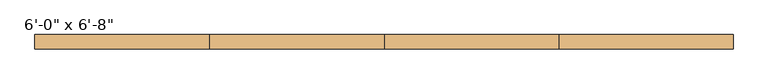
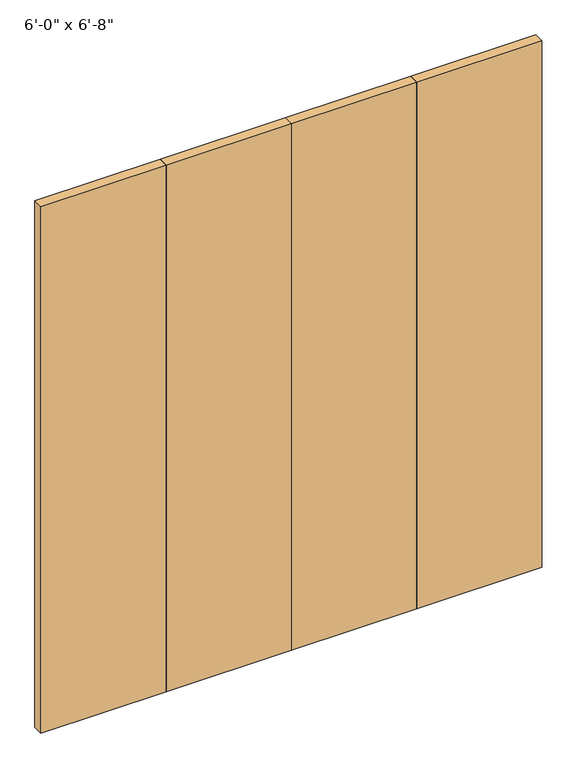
"""IFC4 building model written with IfcOpenShell, lengths in millimetres: door geometry."""

import ifcopenshell
import ifcopenshell.guid

model = None  # the IFC model being written
_history = None  # IfcOwnerHistory: only IFC2X3 demands one
_inside = {}  # id of a spatial element -> (the spatial element, [elements in it])
_under = {}  # id of a project, library or spatial element -> (it, [spatial elements below it])
_declared = {}  # id of a project -> (the project, [libraries it declares])
_typed = {}  # id of a type object -> (the type object, [elements of that type])
_made_of = {}  # id of a material, layer set ... -> (it, [elements and type objects made of it])


def new_model(schema):
    """Start an empty IFC model of exactly this schema.

    Asked for "IFC4X3", IfcOpenShell would pick the latest addendum, in which some entities
    have other attributes; the version numbers below select the first issue.
    IFC2X3 requires an IfcOwnerHistory on every rooted entity: one is made here for all.
    """
    global model, _history
    if schema == "IFC4X3":
        model = ifcopenshell.file(schema_version=(4, 3, 0, 0))
    else:
        model = ifcopenshell.file(schema=schema)
    _inside.clear()
    _under.clear()
    _declared.clear()
    _typed.clear()
    _made_of.clear()
    _history = None
    if model.schema == "IFC2X3":
        org = make("IfcOrganization", Name="unknown")
        user = make(
            "IfcPersonAndOrganization",
            ThePerson=make("IfcPerson", FamilyName="unknown"),
            TheOrganization=org,
        )
        app = make(
            "IfcApplication",
            ApplicationDeveloper=org,
            Version="unknown",
            ApplicationFullName="unknown",
            ApplicationIdentifier="unknown",
        )
        _history = make(
            "IfcOwnerHistory",
            OwningUser=user,
            OwningApplication=app,
            ChangeAction="ADDED",
            CreationDate=0,
        )
    return model


def make(cls, **values):
    """One entity of the class cls with the attributes given. An attribute that is None is left unset."""
    return model.create_entity(
        cls, **{name: value for name, value in values.items() if value is not None}
    )


def rooted(cls, **values):
    """An entity with a GlobalId (a new one), such as an element, a storey or a relation."""
    return make(cls, GlobalId=ifcopenshell.guid.new(), OwnerHistory=_history, **values)


def si_unit(unit_type, name, prefix=None):
    """IfcSIUnit, for example si_unit("LENGTHUNIT", "METRE", prefix="MILLI")."""
    return make("IfcSIUnit", UnitType=unit_type, Prefix=prefix, Name=name)


def assignment(units):
    """IfcUnitAssignment: the units of a project."""
    return None if units is None else make("IfcUnitAssignment", Units=units)


def point(xyz):
    """IfcCartesianPoint."""
    return None if xyz is None else make("IfcCartesianPoint", Coordinates=xyz)


def direction(xyz):
    """IfcDirection."""
    return None if xyz is None else make("IfcDirection", DirectionRatios=xyz)


def frame(location, z_axis=None, x_axis=None):
    """IfcAxis2Placement3D, a coordinate frame: its origin and axes. An axis left out is left unset."""
    return make(
        "IfcAxis2Placement3D",
        Location=point(location),
        Axis=direction(z_axis),
        RefDirection=direction(x_axis),
    )


def origin():
    """The frame at (0, 0, 0) with its axes left unset."""
    return frame((0.0, 0.0, 0.0))


def origin_with_axes():
    """The frame at (0, 0, 0) with the z axis (0, 0, 1) and the x axis (1, 0, 0) written out."""
    return frame((0.0, 0.0, 0.0), z_axis=(0.0, 0.0, 1.0), x_axis=(1.0, 0.0, 0.0))


def place(relative_to, where):
    """IfcLocalPlacement: puts the frame where relative to a parent placement (None: the world)."""
    return make(
        "IfcLocalPlacement", PlacementRelTo=relative_to, RelativePlacement=where
    )


def context(
    kind, dimensions, precision=None, world=None, true_north=None, identifier=None
):
    """IfcGeometricRepresentationContext, for example the 3D "Model" context."""
    return make(
        "IfcGeometricRepresentationContext",
        ContextIdentifier=identifier,
        ContextType=kind,
        CoordinateSpaceDimension=dimensions,
        Precision=precision,
        WorldCoordinateSystem=world,
        TrueNorth=true_north,
    )


def project(units=None, contexts=None):
    """IfcProject with its units and contexts."""
    return rooted(
        "IfcProject",
        Name="project",
        RepresentationContexts=contexts,
        UnitsInContext=assignment(units),
    )


def spatial(cls, under=None, at=None, **own):
    """A site, building, storey or space (cls), placed at a placement, below another one or the project."""
    s = rooted(cls, ObjectPlacement=at, **own)
    if under is not None:
        _under.setdefault(under.id(), (under, []))[1].append(s)
    return s


def polyline(points):
    """IfcPolyline through the points."""
    return make("IfcPolyline", Points=[point(p) for p in points])


def outline(outer, holes=None, kind="AREA"):
    """IfcArbitraryClosedProfileDef: a profile drawn as a closed curve; with holes, ...WithVoids."""
    if holes is None:
        return make("IfcArbitraryClosedProfileDef", ProfileType=kind, OuterCurve=outer)
    return make(
        "IfcArbitraryProfileDefWithVoids",
        ProfileType=kind,
        OuterCurve=outer,
        InnerCurves=holes,
    )


def extrude(swept, where, along, depth):
    """IfcExtrudedAreaSolid: the profile swept, set in the frame where, extruded along a direction by depth."""
    return make(
        "IfcExtrudedAreaSolid",
        SweptArea=swept,
        Position=where,
        ExtrudedDirection=direction(along),
        Depth=depth,
    )


def shape(context_of_items, identifier, shape_type, items):
    """IfcShapeRepresentation: the items that make up one representation, for example the "Body"."""
    return make(
        "IfcShapeRepresentation",
        ContextOfItems=context_of_items,
        RepresentationIdentifier=identifier,
        RepresentationType=shape_type,
        Items=items,
    )


def source(mapping_origin, context_of_items, identifier, shape_type, items):
    """IfcRepresentationMap: a shape defined once, which mapped items show again and again."""
    return make(
        "IfcRepresentationMap",
        MappingOrigin=mapping_origin,
        MappedRepresentation=shape(context_of_items, identifier, shape_type, items),
    )


def transform(
    local_origin,
    x_axis=None,
    y_axis=None,
    z_axis=None,
    scale=None,
    scale2=None,
    scale3=None,
    uniform=True,
):
    """IfcCartesianTransformationOperator3D, or its non-uniform kind. x_axis, y_axis, z_axis: its Axis1, 2, 3."""
    if uniform:
        return make(
            "IfcCartesianTransformationOperator3D",
            Axis1=direction(x_axis),
            Axis2=direction(y_axis),
            LocalOrigin=point(local_origin),
            Scale=scale,
            Axis3=direction(z_axis),
        )
    return make(
        "IfcCartesianTransformationOperator3DnonUniform",
        Axis1=direction(x_axis),
        Axis2=direction(y_axis),
        LocalOrigin=point(local_origin),
        Scale=scale,
        Axis3=direction(z_axis),
        Scale2=scale2,
        Scale3=scale3,
    )


def mapped(mapping_source, mapping_target):
    """IfcMappedItem: shows the shape of a source again, moved by a transform."""
    return make(
        "IfcMappedItem", MappingSource=mapping_source, MappingTarget=mapping_target
    )


def made_of(thing, what):
    """Note that an element or type object is made of a material, layer set ...; save() writes the relation."""
    if what is not None:
        _made_of.setdefault(what.id(), (what, []))[1].append(thing)
    return thing


def element(
    cls,
    number,
    at=None,
    inside=None,
    cuts=None,
    type_object=None,
    material=None,
    context=None,
    identifier="Body",
    shape_type=None,
    held_by="IfcProductDefinitionShape",
    body=None,
    shapes=None,
    **own,
):
    """One element of the class cls, such as IfcWall. Its Tag is "e" and its number.

    at: its placement. inside: the storey or other place that contains it. cuts: it is an
    opening in that element (IfcRelVoidsElement). A single representation is given by context,
    identifier, shape_type and body (its items); several are given by shapes. held_by: the class
    of the entity that holds the representations. save() writes the other relations.
    """
    e = rooted(cls, Tag="e%d" % number, ObjectPlacement=at, **own)
    if body is not None:
        shapes = [shape(context, identifier, shape_type, body)]
    if shapes is not None:
        e.Representation = make(held_by, Representations=shapes)
    if inside is not None:
        _inside.setdefault(inside.id(), (inside, []))[1].append(e)
    if cuts is not None:
        rooted(
            "IfcRelVoidsElement", RelatingBuildingElement=cuts, RelatedOpeningElement=e
        )
    if type_object is not None:
        _typed.setdefault(type_object.id(), (type_object, []))[1].append(e)
    return made_of(e, material)


def aggregate(whole, parts):
    """IfcRelAggregates: a whole, such as a stair, and the parts it consists of."""
    return rooted("IfcRelAggregates", RelatingObject=whole, RelatedObjects=parts)


def save(model, path):
    """Write the relations noted so far, then the file.

    IfcRelAggregates (storeys below a building ...), IfcRelContainedInSpatialStructure (elements
    in a storey), IfcRelDefinesByType, IfcRelAssociatesMaterial and IfcRelDeclares: one each for
    every whole, place, type object, material and project.
    """
    for whole, parts in _under.values():
        aggregate(whole, parts)
    for where, things in _inside.values():
        rooted(
            "IfcRelContainedInSpatialStructure",
            RelatedElements=things,
            RelatingStructure=where,
        )
    for kind, things in _typed.values():
        rooted("IfcRelDefinesByType", RelatedObjects=things, RelatingType=kind)
    for what, things in _made_of.values():
        rooted("IfcRelAssociatesMaterial", RelatedObjects=things, RelatingMaterial=what)
    for by, libraries in _declared.values():
        rooted("IfcRelDeclares", RelatingContext=by, RelatedDefinitions=libraries)
    model.write(path)


def door_f2f0d49f(model_context):
    return source(origin(), model_context, "Body", "SweptSolid", [
        extrude(outline(polyline([(-914.4, 57.15), (-457.2, 57.15), (-457.2, 19.05), (-914.4, 19.05), (-914.4, 57.15)])), origin_with_axes(), (0.0, 0.0, 1.0), 2032.0),
        extrude(outline(polyline([(-457.2, 57.15), (0.0, 57.15), (0.0, 19.05), (-457.2, 19.05), (-457.2, 57.15)])), origin_with_axes(), (0.0, 0.0, 1.0), 2032.0),
        extrude(outline(polyline([(0.0, 57.15), (457.2, 57.15), (457.2, 19.05), (0.0, 19.05), (0.0, 57.15)])), origin_with_axes(), (0.0, 0.0, 1.0), 2032.0),
        extrude(outline(polyline([(457.2, 57.15), (914.4, 57.15), (914.4, 19.05), (457.2, 19.05), (457.2, 57.15)])), origin_with_axes(), (0.0, 0.0, 1.0), 2032.0),
    ])


if __name__ == "__main__":
    model = new_model("IFC4")
    model_context = context("Model", 3, world=origin())
    ifc_project = project(units=[si_unit("LENGTHUNIT", "METRE", prefix="MILLI")], contexts=[model_context])
    site = spatial("IfcSite", under=ifc_project)
    building = spatial("IfcBuilding", under=site)
    placement = place(None, origin())
    door_shape = door_f2f0d49f(model_context)
    element("IfcDoor", 1, ObjectType="Planitar - Bifold Door : 6'-0\" x 6'-8\"", at=placement, inside=building, context=model_context, shape_type="MappedRepresentation", body=[
        mapped(door_shape, transform((0.0, 0.0, 0.0), x_axis=(1.0, 0.0, 0.0), y_axis=(0.0, 1.0, 0.0), z_axis=(0.0, 0.0, 1.0))),
    ])
    save(model, "model.ifc")
